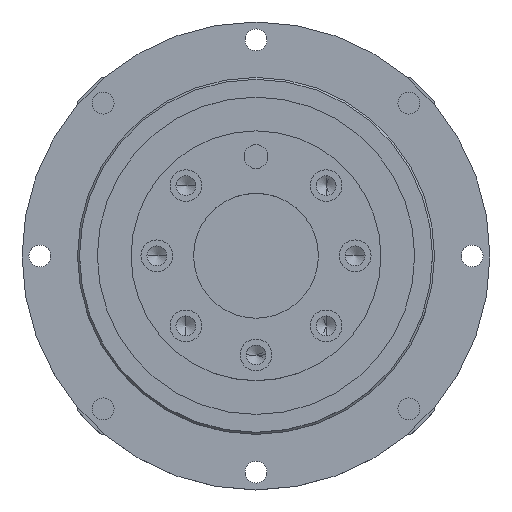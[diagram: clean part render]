
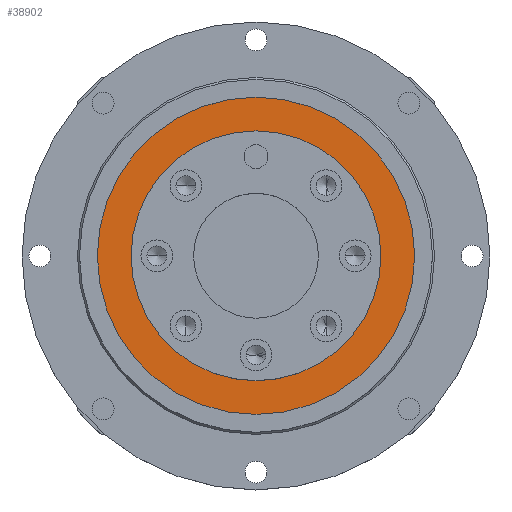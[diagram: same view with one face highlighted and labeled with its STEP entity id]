
A CAD part, top view. The second image highlights one B-rep face of the part: STEP entity #38902.
In plain terms, the highlighted planar face has unit normal (0, 0, 1).
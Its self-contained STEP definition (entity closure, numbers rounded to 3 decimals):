
#23 = DIRECTION ( 'NONE',  ( 0., 0., 1. ) ) ;
#3659 = CARTESIAN_POINT ( 'NONE',  ( 31., 0., -1. ) ) ;
#4453 = PLANE ( 'NONE',  #34377 ) ;
#5497 = EDGE_CURVE ( 'NONE', #19841, #24263, #9730, .T. ) ;
#6001 = CARTESIAN_POINT ( 'NONE',  ( 0., 0., -1. ) ) ;
#8166 = DIRECTION ( 'NONE',  ( -1., 0., 0. ) ) ;
#9673 = DIRECTION ( 'NONE',  ( -1., 0., 0. ) ) ;
#9730 = CIRCLE ( 'NONE', #15992, 40. ) ;
#10695 = ORIENTED_EDGE ( 'NONE', *, *, #5497, .T. ) ;
#13801 = FACE_BOUND ( 'NONE', #37886, .T. ) ;
#14471 = AXIS2_PLACEMENT_3D ( 'NONE', #41757, #20232, #45173 ) ;
#14917 = FACE_OUTER_BOUND ( 'NONE', #17662, .T. ) ;
#15992 = AXIS2_PLACEMENT_3D ( 'NONE', #28488, #28453, #28395 ) ;
#17136 = CARTESIAN_POINT ( 'NONE',  ( -40., 0., -1. ) ) ;
#17662 = EDGE_LOOP ( 'NONE', ( #46297, #10695 ) ) ;
#19841 = VERTEX_POINT ( 'NONE', #17136 ) ;
#20232 = DIRECTION ( 'NONE',  ( 0., 0., 1. ) ) ;
#22377 = CARTESIAN_POINT ( 'NONE',  ( 0., 0., -1. ) ) ;
#23628 = ORIENTED_EDGE ( 'NONE', *, *, #26347, .F. ) ;
#24263 = VERTEX_POINT ( 'NONE', #36976 ) ;
#24451 = AXIS2_PLACEMENT_3D ( 'NONE', #22377, #23, #26051 ) ;
#26051 = DIRECTION ( 'NONE',  ( 1., 0., 0. ) ) ;
#26347 = EDGE_CURVE ( 'NONE', #42245, #27653, #44502, .T. ) ;
#27653 = VERTEX_POINT ( 'NONE', #43571 ) ;
#27910 = EDGE_CURVE ( 'NONE', #27653, #42245, #35926, .T. ) ;
#28395 = DIRECTION ( 'NONE',  ( 1., 0., 0. ) ) ;
#28453 = DIRECTION ( 'NONE',  ( 0., 0., 1. ) ) ;
#28488 = CARTESIAN_POINT ( 'NONE',  ( 0., 0., -1. ) ) ;
#30370 = DIRECTION ( 'NONE',  ( 0., 0., -1. ) ) ;
#31848 = DIRECTION ( 'NONE',  ( 0., 0., 1. ) ) ;
#34377 = AXIS2_PLACEMENT_3D ( 'NONE', #37408, #30370, #8166 ) ;
#35926 = CIRCLE ( 'NONE', #40168, 31. ) ;
#36976 = CARTESIAN_POINT ( 'NONE',  ( 40., 0., -1. ) ) ;
#37408 = CARTESIAN_POINT ( 'NONE',  ( 0., 40., -1. ) ) ;
#37886 = EDGE_LOOP ( 'NONE', ( #40476, #23628 ) ) ;
#38902 = ADVANCED_FACE ( 'NONE', ( #14917, #13801 ), #4453, .F. ) ;
#39855 = EDGE_CURVE ( 'NONE', #24263, #19841, #40402, .T. ) ;
#40168 = AXIS2_PLACEMENT_3D ( 'NONE', #6001, #31848, #9673 ) ;
#40402 = CIRCLE ( 'NONE', #24451, 40. ) ;
#40476 = ORIENTED_EDGE ( 'NONE', *, *, #27910, .F. ) ;
#41757 = CARTESIAN_POINT ( 'NONE',  ( 0., 0., -1. ) ) ;
#42245 = VERTEX_POINT ( 'NONE', #3659 ) ;
#43571 = CARTESIAN_POINT ( 'NONE',  ( -31., 0., -1. ) ) ;
#44502 = CIRCLE ( 'NONE', #14471, 31. ) ;
#45173 = DIRECTION ( 'NONE',  ( -1., 0., 0. ) ) ;
#46297 = ORIENTED_EDGE ( 'NONE', *, *, #39855, .T. ) ;
